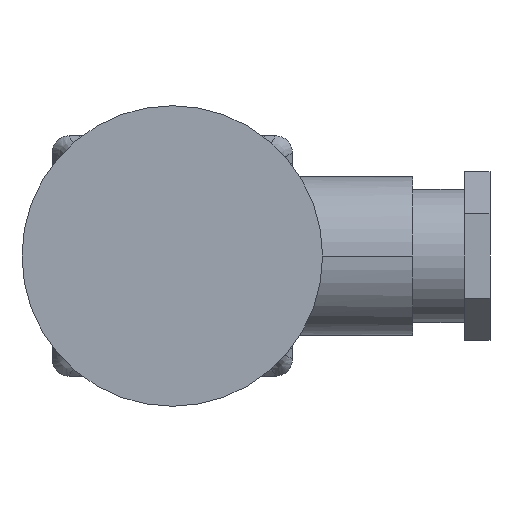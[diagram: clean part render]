
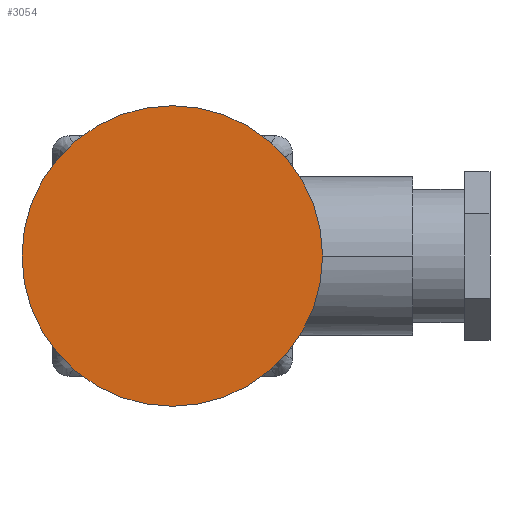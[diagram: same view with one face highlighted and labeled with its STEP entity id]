
A CAD part, front view. The second image highlights one B-rep face of the part: STEP entity #3054.
In plain terms, the highlighted planar face has unit normal (0, -1, 0).
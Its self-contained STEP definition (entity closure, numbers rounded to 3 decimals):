
#1077=CARTESIAN_POINT('',(0.,134.,0.));
#1078=DIRECTION('',(0.,1.,0.));
#1079=DIRECTION('',(-1.,0.,0.));
#1080=AXIS2_PLACEMENT_3D('',#1077,#1078,#1079);
#1082=CARTESIAN_POINT('',(0.,134.,0.));
#1083=DIRECTION('',(0.,1.,0.));
#1084=DIRECTION('',(1.,0.,0.));
#1085=AXIS2_PLACEMENT_3D('',#1082,#1083,#1084);
#1288=CARTESIAN_POINT('',(-17.5,134.,0.));
#1289=CARTESIAN_POINT('',(17.5,134.,0.));
#1290=VERTEX_POINT('',#1288);
#1291=VERTEX_POINT('',#1289);
#3045=CARTESIAN_POINT('',(0.,134.,0.));
#3046=DIRECTION('',(0.,1.,0.));
#3047=DIRECTION('',(1.,0.,0.));
#3048=AXIS2_PLACEMENT_3D('',#3045,#3046,#3047);
#3049=PLANE('',#3048);
#3050=ORIENTED_EDGE('',*,*,#3040,.T.);
#3051=ORIENTED_EDGE('',*,*,#3024,.T.);
#3052=EDGE_LOOP('',(#3050,#3051));
#3053=FACE_OUTER_BOUND('',#3052,.F.);
#1081=CIRCLE('',#1080,17.5);
#1086=CIRCLE('',#1085,17.5);
#3024=EDGE_CURVE('',#1291,#1290,#1086,.T.);
#3040=EDGE_CURVE('',#1290,#1291,#1081,.T.);
#3054=ADVANCED_FACE('',(#3053),#3049,.F.);
